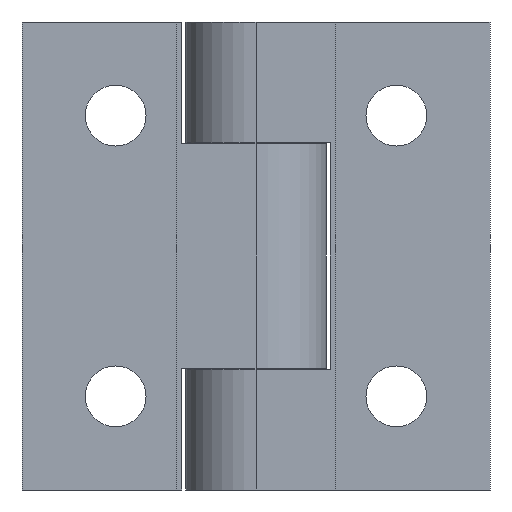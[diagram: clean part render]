
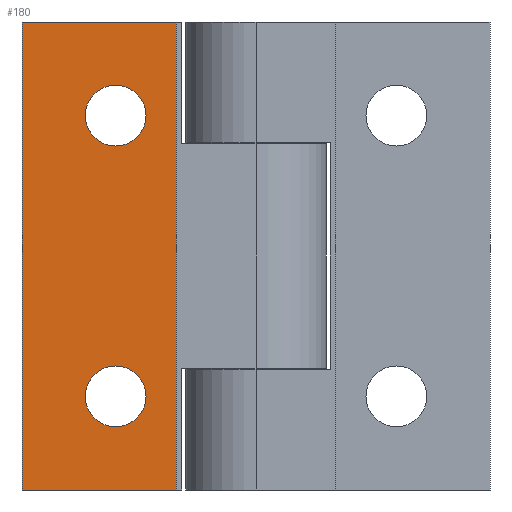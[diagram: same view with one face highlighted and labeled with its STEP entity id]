
A CAD part, front view. The second image highlights one B-rep face of the part: STEP entity #180.
In plain terms, the highlighted planar face has unit normal (0, -1, 0).
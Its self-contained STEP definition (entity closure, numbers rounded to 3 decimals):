
#180 = ADVANCED_FACE( '', ( #308, #309, #310 ), #311, .F. );
#308 = FACE_BOUND( '', #585, .T. );
#309 = FACE_BOUND( '', #586, .T. );
#310 = FACE_OUTER_BOUND( '', #587, .T. );
#311 = PLANE( '', #588 );
#585 = EDGE_LOOP( '', ( #940 ) );
#586 = EDGE_LOOP( '', ( #941 ) );
#587 = EDGE_LOOP( '', ( #942, #943, #944, #945 ) );
#588 = AXIS2_PLACEMENT_3D( '', #946, #947, #948 );
#940 = ORIENTED_EDGE( '', *, *, #1744, .F. );
#941 = ORIENTED_EDGE( '', *, *, #1745, .F. );
#942 = ORIENTED_EDGE( '', *, *, #1746, .T. );
#943 = ORIENTED_EDGE( '', *, *, #1743, .F. );
#944 = ORIENTED_EDGE( '', *, *, #1747, .F. );
#945 = ORIENTED_EDGE( '', *, *, #1748, .T. );
#946 = CARTESIAN_POINT( '', ( 0., 0., 25. ) );
#947 = DIRECTION( '', ( 0., 1., 0. ) );
#948 = DIRECTION( '', ( 0., 0., 1. ) );
#1743 = EDGE_CURVE( '', #2088, #2086, #2090, .T. );
#1744 = EDGE_CURVE( '', #2091, #2091, #2092, .T. );
#1745 = EDGE_CURVE( '', #2093, #2093, #2094, .T. );
#1746 = EDGE_CURVE( '', #2095, #2086, #2096, .T. );
#1747 = EDGE_CURVE( '', #2097, #2088, #2098, .T. );
#1748 = EDGE_CURVE( '', #2097, #2095, #2099, .T. );
#2086 = VERTEX_POINT( '', #2559 );
#2088 = VERTEX_POINT( '', #2562 );
#2090 = LINE( '', #2565, #2566 );
#2091 = VERTEX_POINT( '', #2567 );
#2092 = CIRCLE( '', #2568, 3.25 );
#2093 = VERTEX_POINT( '', #2569 );
#2094 = CIRCLE( '', #2570, 3.25 );
#2095 = VERTEX_POINT( '', #2571 );
#2096 = LINE( '', #2572, #2573 );
#2097 = VERTEX_POINT( '', #2574 );
#2098 = LINE( '', #2575, #2576 );
#2099 = LINE( '', #2577, #2578 );
#2559 = CARTESIAN_POINT( '', ( 16.5, 0., -25. ) );
#2562 = CARTESIAN_POINT( '', ( 16.5, 0., 25. ) );
#2565 = CARTESIAN_POINT( '', ( 16.5, 0., 25. ) );
#2566 = VECTOR( '', #3215, 1000. );
#2567 = CARTESIAN_POINT( '', ( 10., 0., -18.25 ) );
#2568 = AXIS2_PLACEMENT_3D( '', #3216, #3217, #3218 );
#2569 = CARTESIAN_POINT( '', ( 10., 0., 11.75 ) );
#2570 = AXIS2_PLACEMENT_3D( '', #3219, #3220, #3221 );
#2571 = CARTESIAN_POINT( '', ( 0., 0., -25. ) );
#2572 = CARTESIAN_POINT( '', ( 0., 0., -25. ) );
#2573 = VECTOR( '', #3222, 1000. );
#2574 = CARTESIAN_POINT( '', ( 0., 0., 25. ) );
#2575 = CARTESIAN_POINT( '', ( 0., 0., 25. ) );
#2576 = VECTOR( '', #3223, 1000. );
#2577 = CARTESIAN_POINT( '', ( 0., 0., 25. ) );
#2578 = VECTOR( '', #3224, 1000. );
#3215 = DIRECTION( '', ( 0., 0., -1. ) );
#3216 = CARTESIAN_POINT( '', ( 10., 0., -15. ) );
#3217 = DIRECTION( '', ( 0., -1., 0. ) );
#3218 = DIRECTION( '', ( 0., 0., -1. ) );
#3219 = CARTESIAN_POINT( '', ( 10., 0., 15. ) );
#3220 = DIRECTION( '', ( 0., -1., 0. ) );
#3221 = DIRECTION( '', ( 0., 0., -1. ) );
#3222 = DIRECTION( '', ( 1., 0., 0. ) );
#3223 = DIRECTION( '', ( 1., 0., 0. ) );
#3224 = DIRECTION( '', ( 0., 0., -1. ) );
